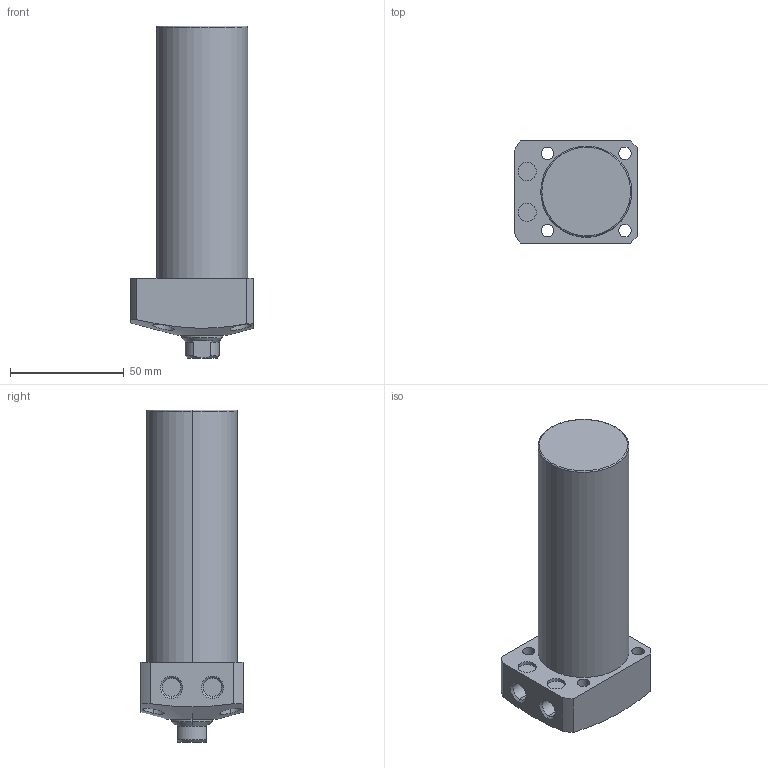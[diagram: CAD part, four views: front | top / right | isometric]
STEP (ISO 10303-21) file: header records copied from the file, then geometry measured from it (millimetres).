
FILE_DESCRIPTION (( 'STEP AP203' ), '1' );
FILE_NAME ('CLL-040CA-085.STEP', '2019-12-21T03:40:17', ( '' ), ( '' ), 'SwSTEP 2.0', 'SolidWorks 2015', '' );
FILE_SCHEMA (( 'CONFIG_CONTROL_DESIGN' ));
Length unit declared in the file: millimetre
Products named in the file (1): CLL-040CA-085
Bounding box: 54 x 45 x 146 mm (x, y, z)
Volume: 189925 mm3; surface area: 26051 mm2
Topology: 1 solids, 1 shells, 74 faces, 170 edges, 107 vertices
Faces by surface type: cylinder 35, plane 22, cone 15, torus 2
Entity records: 2505 total; most frequent: CARTESIAN_POINT 718, DIRECTION 374, ORIENTED_EDGE 336, EDGE_CURVE 168, AXIS2_PLACEMENT_3D 155, VERTEX_POINT 107, EDGE_LOOP 93, CIRCLE 80
